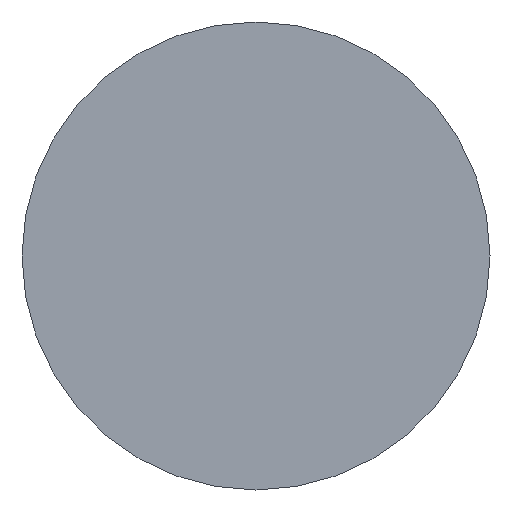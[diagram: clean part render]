
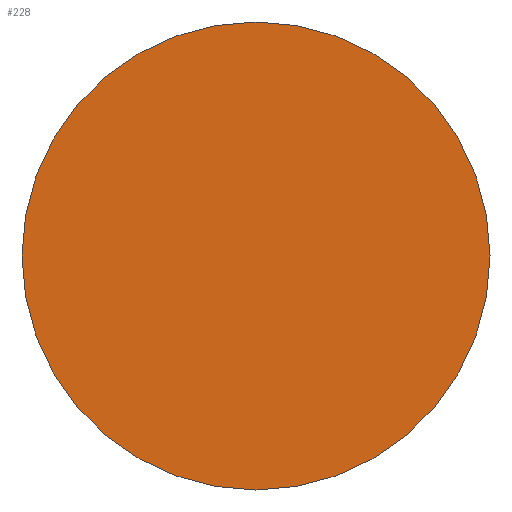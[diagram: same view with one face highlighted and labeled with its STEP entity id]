
A CAD part, front view. The second image highlights one B-rep face of the part: STEP entity #228.
In plain terms, the highlighted planar face has unit normal (0, -1, 0).
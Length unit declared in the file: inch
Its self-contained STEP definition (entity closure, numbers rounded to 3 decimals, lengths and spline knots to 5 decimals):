
#1 = VERTEX_POINT ( 'NONE', #257 ) ;
#4 = CARTESIAN_POINT ( 'NONE',  ( 0., 0., 1.75 ) ) ;
#6 = PLANE ( 'NONE',  #106 ) ;
#12 = CARTESIAN_POINT ( 'NONE',  ( 0., 0., 0. ) ) ;
#39 = EDGE_LOOP ( 'NONE', ( #93, #194 ) ) ;
#55 = DIRECTION ( 'NONE',  ( 0., 1., 0. ) ) ;
#64 = DIRECTION ( 'NONE',  ( 0., 0., 1. ) ) ;
#93 = ORIENTED_EDGE ( 'NONE', *, *, #188, .F. ) ;
#106 = AXIS2_PLACEMENT_3D ( 'NONE', #307, #55, #185 ) ;
#131 = DIRECTION ( 'NONE',  ( 0., 1., 0. ) ) ;
#134 = CARTESIAN_POINT ( 'NONE',  ( 0., 0., 0. ) ) ;
#173 = CIRCLE ( 'NONE', #283, 1.75 ) ;
#185 = DIRECTION ( 'NONE',  ( 0., 0., 1. ) ) ;
#188 = EDGE_CURVE ( 'NONE', #1, #284, #323, .T. ) ;
#192 = DIRECTION ( 'NONE',  ( 0., 1., 0. ) ) ;
#194 = ORIENTED_EDGE ( 'NONE', *, *, #208, .F. ) ;
#208 = EDGE_CURVE ( 'NONE', #284, #1, #173, .T. ) ;
#228 = ADVANCED_FACE ( 'NONE', ( #237 ), #6, .F. ) ;
#237 = FACE_OUTER_BOUND ( 'NONE', #39, .T. ) ;
#257 = CARTESIAN_POINT ( 'NONE',  ( 0., 0., -1.75 ) ) ;
#260 = DIRECTION ( 'NONE',  ( 0., 0., 1. ) ) ;
#275 = AXIS2_PLACEMENT_3D ( 'NONE', #12, #192, #64 ) ;
#283 = AXIS2_PLACEMENT_3D ( 'NONE', #134, #131, #260 ) ;
#284 = VERTEX_POINT ( 'NONE', #4 ) ;
#307 = CARTESIAN_POINT ( 'NONE',  ( 0., 0., 0. ) ) ;
#323 = CIRCLE ( 'NONE', #275, 1.75 ) ;
